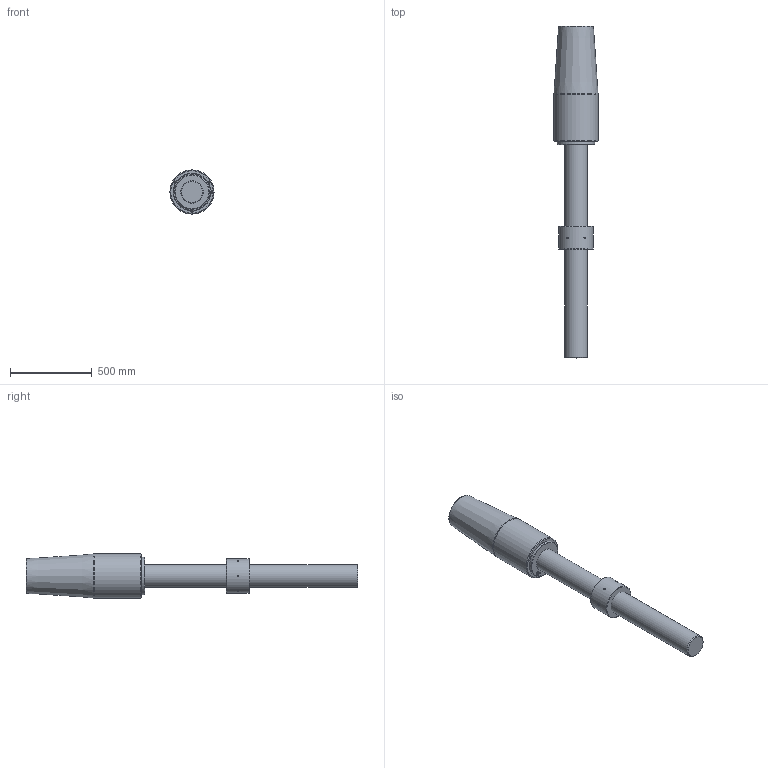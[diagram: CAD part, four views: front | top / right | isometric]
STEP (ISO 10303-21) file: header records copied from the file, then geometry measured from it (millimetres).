
FILE_DESCRIPTION(/* description */ (''),/* implementation_level */ '2;1');
FILE_NAME(/* name */ 'D:\Clienti\Redaelli (inventor)\CYB\STEP\Arrangement\CYB092 52 061 0.stp',/* time_stamp */ '2021-05-08T14:51:25+02:00',/* author */ ('fabri'),/* organization */ (''),/* preprocessor_version */ 'ST-DEVELOPER v16.13',/* originating_system */ 'Autodesk Inventor 2018',/* authorisation */ '');
FILE_SCHEMA (('AUTOMOTIVE_DESIGN { 1 0 10303 214 3 1 1 }'));
Length unit declared in the file: millimetre
Products named in the file (5): CYB092 52 061 0; RNT052 41 051 0_ROD; RNT052 41 051 0_ROD_1; CCY021-51-061-0_BUSH; CCY021-51-061-0
Assembly tree (4 placements, depth 2):
  CYB092 52 061 0
    RNT052 41 051 0_ROD
    RNT052 41 051 0_ROD_1
    CCY021-51-061-0_BUSH
    CCY021-51-061-0
Bounding box: 270 x 2029 x 270 mm (x, y, z)
Volume: 65390063.9 mm3; surface area: 1802531.2 mm2
Topology: 4 solids, 4 shells, 723 faces, 1944 edges, 1291 vertices
Faces by surface type: bspline 404, plane 281, cylinder 18, cone 16, torus 4
Full cylindrical faces by diameter (mm): 10 x6, 13.835 x3, 133.505 x2, 140 x1, 141 x1, 193 x1, 205 x1, 210 x1, 230 x1, 270 x1
Entity records: 24688 total; most frequent: CARTESIAN_POINT 9385, ORIENTED_EDGE 3790, EDGE_CURVE 1895, DIRECTION 1775, VERTEX_POINT 1281, LINE 1033, VECTOR 1033, EDGE_LOOP 828
